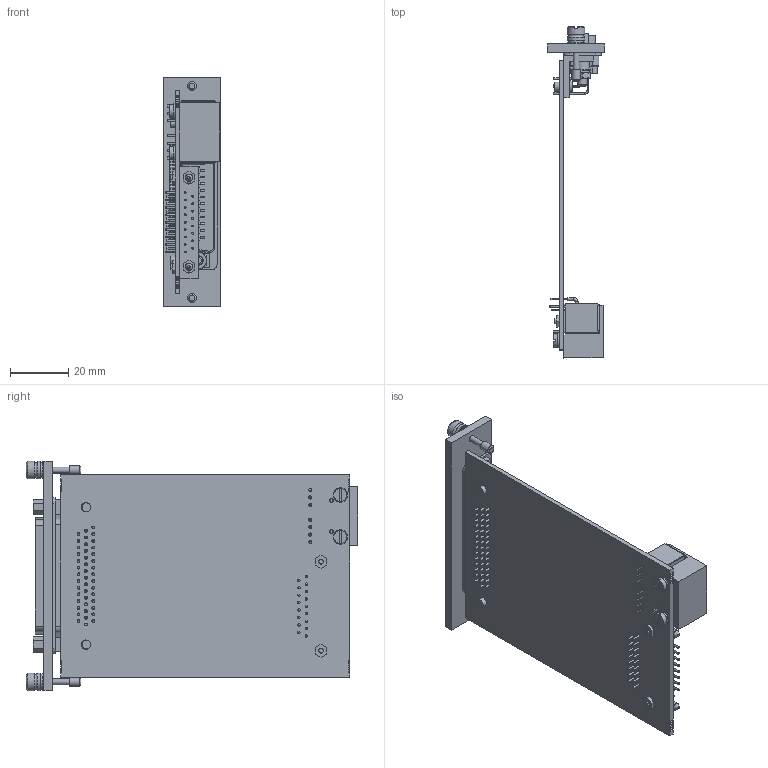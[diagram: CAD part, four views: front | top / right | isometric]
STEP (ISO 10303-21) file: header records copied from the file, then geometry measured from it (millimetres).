
FILE_DESCRIPTION(('STEP AP203'), '1');
FILE_NAME('帎迗.467166.002 沓劌錪 眝3_朒_301', '', ('UNSPECIFIED'), ('UNSPECIFIED'), 'C3D Converter', 'C3D Toolkit', '');
FILE_SCHEMA(('CONFIG_CONTROL_DESIGN'));
Length unit declared in the file: millimetre
Products named in the file (1): КМНТ.467166.002
Bounding box: 19.6 x 113.6 x 78.5 mm (x, y, z)
Volume: 26080.2 mm3; surface area: 28622.3 mm2
Topology: 4 solids, 4 shells, 1765 faces, 4391 edges, 2857 vertices
Faces by surface type: cylinder 854, plane 768, torus 67, cone 40, sphere 36
Full cylindrical faces by diameter (mm): 0.6 x131, 0.76 x44, 0.8 x17, 1 x149, 1.1 x7, 1.4 x2, 1.6 x2, 2 x2, 2.362 x2, 2.459 x2, 2.49 x2, 3 x6, 3.1 x2, 3.175 x4, 3.2 x8, 3.4 x2, 4 x2, 4.5 x2, 5 x4, 6 x10
Entity records: 69260 total; most frequent: CARTESIAN_POINT 13213, DIRECTION 9279, ORIENTED_EDGE 7692, EDGE_CURVE 3846, AXIS2_PLACEMENT_3D 3798, VERTEX_POINT 2842, EDGE_LOOP 2684, CIRCLE 2032
